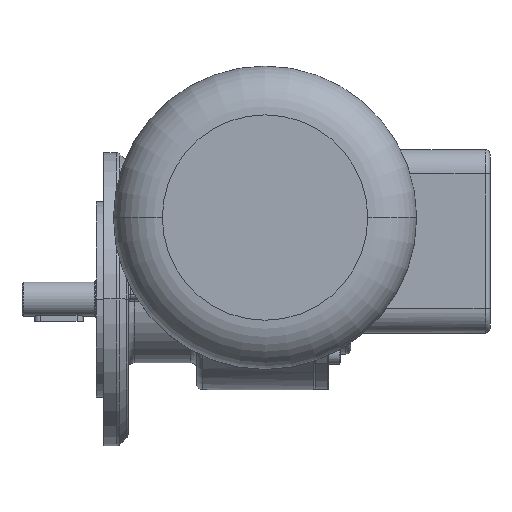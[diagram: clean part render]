
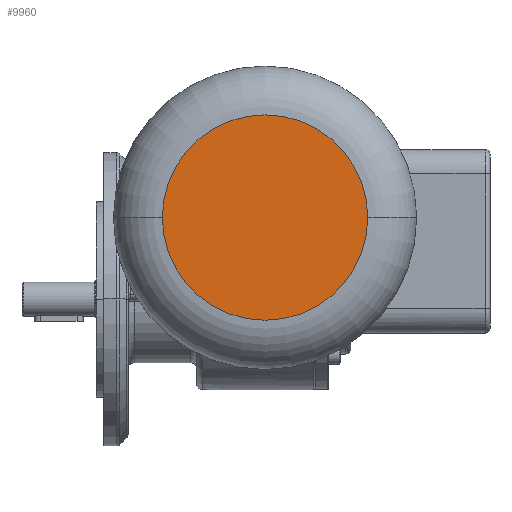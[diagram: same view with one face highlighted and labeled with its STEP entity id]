
A CAD part, top view. The second image highlights one B-rep face of the part: STEP entity #9960.
In plain terms, the highlighted planar face has unit normal (0, 0, 1).
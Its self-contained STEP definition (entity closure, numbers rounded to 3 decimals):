
#368 = PLANE ( 'NONE',  #12681 ) ;
#1241 = VERTEX_POINT ( 'NONE', #3203 ) ;
#2322 = DIRECTION ( 'NONE',  ( 0., 0., 1. ) ) ;
#2822 = ORIENTED_EDGE ( 'NONE', *, *, #8659, .T. ) ;
#3130 = VERTEX_POINT ( 'NONE', #9344 ) ;
#3203 = CARTESIAN_POINT ( 'NONE',  ( -124.08, 42.407, 233.5 ) ) ;
#3466 = CARTESIAN_POINT ( 'NONE',  ( -82.08, 42.407, 233.5 ) ) ;
#4517 = AXIS2_PLACEMENT_3D ( 'NONE', #3466, #8504, #8381 ) ;
#4533 = CIRCLE ( 'NONE', #9532, 42. ) ;
#4843 = EDGE_CURVE ( 'NONE', #1241, #3130, #4533, .T. ) ;
#6696 = CARTESIAN_POINT ( 'NONE',  ( -82.08, 42.407, 233.5 ) ) ;
#7391 = DIRECTION ( 'NONE',  ( 0., 0., -1. ) ) ;
#7879 = ORIENTED_EDGE ( 'NONE', *, *, #4843, .T. ) ;
#8381 = DIRECTION ( 'NONE',  ( 1., 0., 0. ) ) ;
#8497 = CIRCLE ( 'NONE', #4517, 42. ) ;
#8504 = DIRECTION ( 'NONE',  ( 0., 0., 1. ) ) ;
#8659 = EDGE_CURVE ( 'NONE', #3130, #1241, #8497, .T. ) ;
#9344 = CARTESIAN_POINT ( 'NONE',  ( -40.08, 42.407, 233.5 ) ) ;
#9532 = AXIS2_PLACEMENT_3D ( 'NONE', #11146, #2322, #12263 ) ;
#9859 = EDGE_LOOP ( 'NONE', ( #2822, #7879 ) ) ;
#9960 = ADVANCED_FACE ( 'NONE', ( #10663 ), #368, .F. ) ;
#10663 = FACE_OUTER_BOUND ( 'NONE', #9859, .T. ) ;
#11146 = CARTESIAN_POINT ( 'NONE',  ( -82.08, 42.407, 233.5 ) ) ;
#12263 = DIRECTION ( 'NONE',  ( 1., 0., 0. ) ) ;
#12272 = DIRECTION ( 'NONE',  ( 1., 0., 0. ) ) ;
#12681 = AXIS2_PLACEMENT_3D ( 'NONE', #6696, #7391, #12272 ) ;
